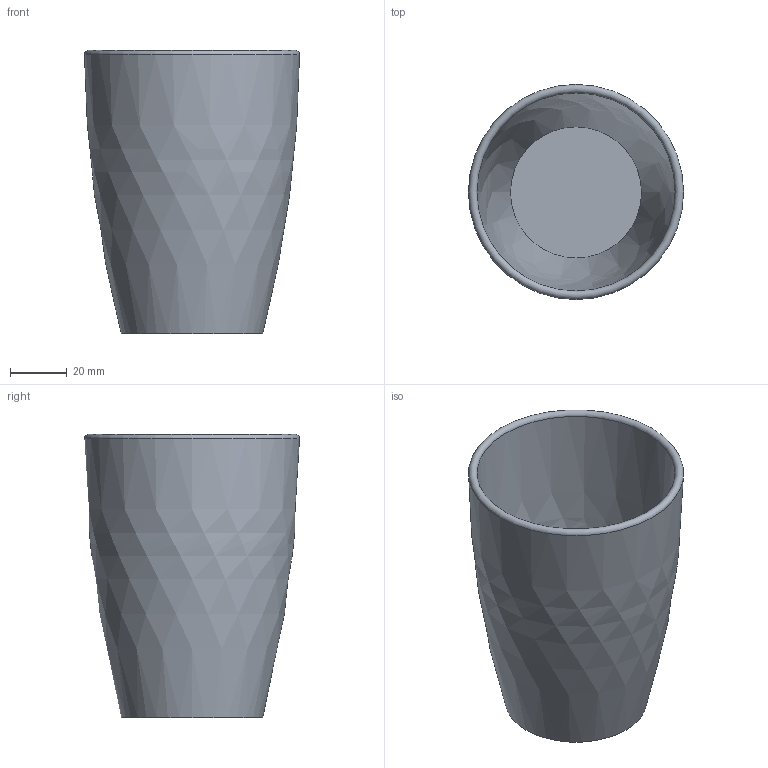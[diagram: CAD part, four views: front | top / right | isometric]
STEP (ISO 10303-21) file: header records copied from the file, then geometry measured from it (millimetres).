
FILE_DESCRIPTION(('FreeCAD Model'),'2;1');
FILE_NAME('Open CASCADE Shape Model','2026-10-13T21:00:25',('FreeCAD'),( 'FreeCAD'),'Open CASCADE STEP processor 7.8','FreeCAD','Unknown');
FILE_SCHEMA(('AUTOMOTIVE_DESIGN { 1 0 10303 214 1 1 1 1 }'));
Length unit declared in the file: millimetre
Products named in the file (1): Open CASCADE STEP translator 7.8 1
Bounding box: 76 x 76 x 100 mm (x, y, z)
Volume: 68772.3 mm3; surface area: 43986.8 mm2
Topology: 1 solids, 1 shells, 5 faces, 7 edges, 4 vertices
Faces by surface type: plane 2, revolution 2, torus 1
Entity records: 130 total; most frequent: DIRECTION 28, CARTESIAN_POINT 19, ORIENTED_EDGE 14, AXIS2_PLACEMENT_3D 13, CIRCLE 9, EDGE_CURVE 7, ADVANCED_FACE 5, FACE_BOUND 5
